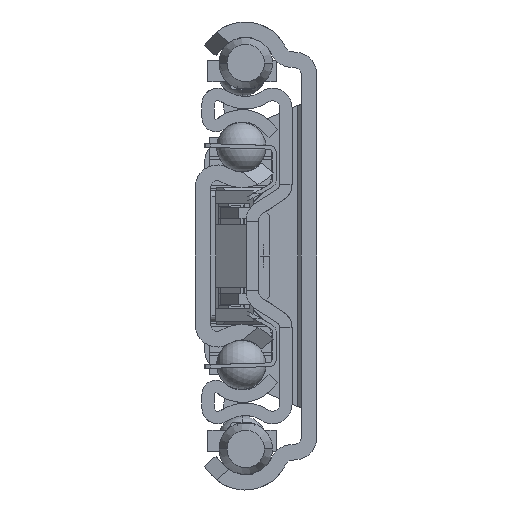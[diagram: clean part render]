
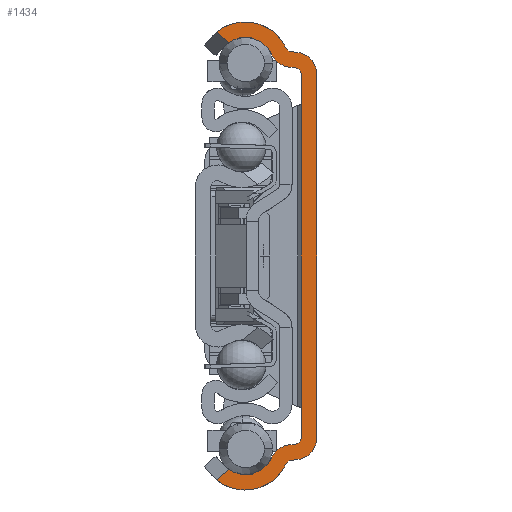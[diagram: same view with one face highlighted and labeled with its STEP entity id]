
A CAD part, left-side view. The second image highlights one B-rep face of the part: STEP entity #1434.
In plain terms, the highlighted planar face has unit normal (-1, 0, 0).
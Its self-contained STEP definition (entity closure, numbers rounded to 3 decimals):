
#1=DIRECTION('',(0.,-0.769,-0.639));
#2=VECTOR('',#1,2.575);
#3=CARTESIAN_POINT('',(0.,16.079,36.021));
#4=LINE('',#3,#2);
#5=CARTESIAN_POINT('',(0.,11.5,30.4));
#6=DIRECTION('',(1.,0.,0.));
#7=DIRECTION('',(0.,0.632,0.775));
#8=AXIS2_PLACEMENT_3D('',#5,#6,#7);
#10=DIRECTION('',(0.,-0.996,-0.087));
#11=VECTOR('',#10,0.904);
#12=CARTESIAN_POINT('',(0.,4.095,32.858));
#13=LINE('',#12,#11);
#14=CARTESIAN_POINT('',(0.,3.5,29.293));
#15=DIRECTION('',(-1.,0.,0.));
#16=DIRECTION('',(0.,-1.,0.));
#17=AXIS2_PLACEMENT_3D('',#14,#15,#16);
#19=DIRECTION('',(0.,0.,-1.));
#20=VECTOR('',#19,58.586);
#21=CARTESIAN_POINT('',(0.,0.,29.293));
#22=LINE('',#21,#20);
#23=CARTESIAN_POINT('',(0.,3.5,-29.293));
#24=DIRECTION('',(-1.,0.,0.));
#25=DIRECTION('',(0.,-0.087,-0.996));
#26=AXIS2_PLACEMENT_3D('',#23,#24,#25);
#28=DIRECTION('',(0.,0.996,-0.087));
#29=VECTOR('',#28,0.904);
#30=CARTESIAN_POINT('',(0.,3.195,-32.78));
#31=LINE('',#30,#29);
#32=CARTESIAN_POINT('',(0.,11.5,-30.4));
#33=DIRECTION('',(1.,0.,0.));
#34=DIRECTION('',(0.,-0.908,-0.419));
#35=AXIS2_PLACEMENT_3D('',#32,#33,#34);
#37=DIRECTION('',(0.,0.769,-0.639));
#38=VECTOR('',#37,2.575);
#39=CARTESIAN_POINT('',(0.,14.098,-34.377));
#40=LINE('',#39,#38);
#41=CARTESIAN_POINT('',(0.,11.5,-30.4));
#42=DIRECTION('',(-1.,0.,0.));
#43=DIRECTION('',(0.,0.547,-0.837));
#44=AXIS2_PLACEMENT_3D('',#41,#42,#43);
#46=CARTESIAN_POINT('',(0.,4.008,-33.854));
#47=DIRECTION('',(-1.,0.,0.));
#48=DIRECTION('',(0.,0.087,0.996));
#49=AXIS2_PLACEMENT_3D('',#46,#47,#48);
#51=DIRECTION('',(0.,-0.996,0.087));
#52=VECTOR('',#51,0.904);
#53=CARTESIAN_POINT('',(0.,4.313,-30.368));
#54=LINE('',#53,#52);
#55=DIRECTION('',(0.,0.,1.));
#56=VECTOR('',#55,58.586);
#57=CARTESIAN_POINT('',(0.,2.5,-29.293));
#58=LINE('',#57,#56);
#59=DIRECTION('',(0.,0.996,0.087));
#60=VECTOR('',#59,0.904);
#61=CARTESIAN_POINT('',(0.,3.413,30.289));
#62=LINE('',#61,#60);
#63=CARTESIAN_POINT('',(0.,4.008,33.854));
#64=DIRECTION('',(-1.,0.,0.));
#65=DIRECTION('',(0.,0.908,-0.419));
#66=AXIS2_PLACEMENT_3D('',#63,#64,#65);
#68=CARTESIAN_POINT('',(0.,11.5,30.4));
#69=DIRECTION('',(-1.,0.,0.));
#70=DIRECTION('',(0.,-0.908,0.419));
#71=AXIS2_PLACEMENT_3D('',#68,#69,#70);
#73=CARTESIAN_POINT('',(0.,14.098,34.377));
#122=CARTESIAN_POINT('',(0.,3.5,29.293));
#123=DIRECTION('',(1.,0.,0.));
#124=DIRECTION('',(0.,-0.087,0.996));
#125=AXIS2_PLACEMENT_3D('',#122,#123,#124);
#625=CARTESIAN_POINT('',(0.,16.079,36.021));
#692=CARTESIAN_POINT('',(0.,16.079,
-36.021));
#747=CARTESIAN_POINT('',(0.,14.098,
-34.377));
#1037=CARTESIAN_POINT('',(0.,3.5,-29.293));
#1038=DIRECTION('',(1.,0.,0.));
#1039=DIRECTION('',(0.,-1.,0.));
#1040=AXIS2_PLACEMENT_3D('',#1037,#1038,#1039);
#1047=CARTESIAN_POINT('',(0.,4.008,-33.854));
#1048=DIRECTION('',(1.,0.,0.));
#1049=DIRECTION('',(0.,0.908,0.419));
#1050=AXIS2_PLACEMENT_3D('',#1047,#1048,#1049);
#1065=CARTESIAN_POINT('',(0.,4.008,33.854));
#1066=DIRECTION('',(1.,0.,0.));
#1067=DIRECTION('',(0.,0.087,-0.996));
#1068=AXIS2_PLACEMENT_3D('',#1065,#1066,#1067);
#1083=CARTESIAN_POINT('',(0.,2.5,-29.293));
#1084=CARTESIAN_POINT('',(0.,2.5,29.293));
#1085=VERTEX_POINT('',#1083);
#1086=VERTEX_POINT('',#1084);
#1087=CARTESIAN_POINT('',(0.,3.413,-30.289));
#1088=VERTEX_POINT('',#1087);
#1089=CARTESIAN_POINT('',(0.,3.413,30.289));
#1090=VERTEX_POINT('',#1089);
#1091=CARTESIAN_POINT('',(0.,4.095,32.858));
#1092=CARTESIAN_POINT('',(0.,4.916,33.436));
#1093=VERTEX_POINT('',#1091);
#1094=VERTEX_POINT('',#1092);
#1095=CARTESIAN_POINT('',(0.,4.916,-33.436));
#1096=CARTESIAN_POINT('',(0.,4.095,-32.858));
#1097=VERTEX_POINT('',#1095);
#1098=VERTEX_POINT('',#1096);
#1099=CARTESIAN_POINT('',(0.,4.313,-30.368));
#1100=CARTESIAN_POINT('',(0.,7.186,-32.389));
#1101=VERTEX_POINT('',#1099);
#1102=VERTEX_POINT('',#1100);
#1103=CARTESIAN_POINT('',(0.,7.186,32.389));
#1104=CARTESIAN_POINT('',(0.,4.313,30.368));
#1105=VERTEX_POINT('',#1103);
#1106=VERTEX_POINT('',#1104);
#1107=CARTESIAN_POINT('',(0.,0.,29.293));
#1108=CARTESIAN_POINT('',(0.,3.195,32.78));
#1109=VERTEX_POINT('',#1107);
#1110=VERTEX_POINT('',#1108);
#1111=CARTESIAN_POINT('',(0.,3.195,-32.78));
#1112=CARTESIAN_POINT('',(0.,0.,-29.293));
#1113=VERTEX_POINT('',#1111);
#1114=VERTEX_POINT('',#1112);
#1361=VERTEX_POINT('',#73);
#1369=VERTEX_POINT('',#625);
#1370=VERTEX_POINT('',#692);
#1378=VERTEX_POINT('',#747);
#1387=CARTESIAN_POINT('',(0.,0.,0.));
#1388=DIRECTION('',(1.,0.,0.));
#1389=DIRECTION('',(0.,-1.,0.));
#1390=AXIS2_PLACEMENT_3D('',#1387,#1388,#1389);
#1391=PLANE('',#1390);
#1393=ORIENTED_EDGE('',*,*,#1392,.F.);
#1395=ORIENTED_EDGE('',*,*,#1394,.T.);
#1397=ORIENTED_EDGE('',*,*,#1396,.F.);
#1399=ORIENTED_EDGE('',*,*,#1398,.T.);
#1401=ORIENTED_EDGE('',*,*,#1400,.F.);
#1403=ORIENTED_EDGE('',*,*,#1402,.T.);
#1405=ORIENTED_EDGE('',*,*,#1404,.F.);
#1407=ORIENTED_EDGE('',*,*,#1406,.T.);
#1409=ORIENTED_EDGE('',*,*,#1408,.F.);
#1411=ORIENTED_EDGE('',*,*,#1410,.T.);
#1413=ORIENTED_EDGE('',*,*,#1412,.F.);
#1415=ORIENTED_EDGE('',*,*,#1414,.T.);
#1417=ORIENTED_EDGE('',*,*,#1416,.F.);
#1419=ORIENTED_EDGE('',*,*,#1418,.T.);
#1421=ORIENTED_EDGE('',*,*,#1420,.F.);
#1423=ORIENTED_EDGE('',*,*,#1422,.T.);
#1425=ORIENTED_EDGE('',*,*,#1424,.F.);
#1427=ORIENTED_EDGE('',*,*,#1426,.T.);
#1429=ORIENTED_EDGE('',*,*,#1428,.F.);
#1431=ORIENTED_EDGE('',*,*,#1430,.T.);
#1432=EDGE_LOOP('',(#1393,#1395,#1397,#1399,#1401,#1403,#1405,#1407,#1409,#1411,
#1413,#1415,#1417,#1419,#1421,#1423,#1425,#1427,#1429,#1431));
#1433=FACE_OUTER_BOUND('',#1432,.F.);
#9=CIRCLE('',#8,7.25);
#18=CIRCLE('',#17,3.5);
#27=CIRCLE('',#26,3.5);
#36=CIRCLE('',#35,7.25);
#45=CIRCLE('',#44,4.75);
#50=CIRCLE('',#49,3.5);
#67=CIRCLE('',#66,3.5);
#72=CIRCLE('',#71,4.75);
#126=CIRCLE('',#125,1.);
#1041=CIRCLE('',#1040,1.);
#1051=CIRCLE('',#1050,1.);
#1069=CIRCLE('',#1068,1.);
#1392=EDGE_CURVE('',#1369,#1361,#4,.T.);
#1394=EDGE_CURVE('',#1369,#1094,#9,.T.);
#1396=EDGE_CURVE('',#1093,#1094,#1069,.T.);
#1398=EDGE_CURVE('',#1093,#1110,#13,.T.);
#1400=EDGE_CURVE('',#1109,#1110,#18,.T.);
#1402=EDGE_CURVE('',#1109,#1114,#22,.T.);
#1404=EDGE_CURVE('',#1113,#1114,#27,.T.);
#1406=EDGE_CURVE('',#1113,#1098,#31,.T.);
#1408=EDGE_CURVE('',#1097,#1098,#1051,.T.);
#1410=EDGE_CURVE('',#1097,#1370,#36,.T.);
#1412=EDGE_CURVE('',#1378,#1370,#40,.T.);
#1414=EDGE_CURVE('',#1378,#1102,#45,.T.);
#1416=EDGE_CURVE('',#1101,#1102,#50,.T.);
#1418=EDGE_CURVE('',#1101,#1088,#54,.T.);
#1420=EDGE_CURVE('',#1085,#1088,#1041,.T.);
#1422=EDGE_CURVE('',#1085,#1086,#58,.T.);
#1424=EDGE_CURVE('',#1090,#1086,#126,.T.);
#1426=EDGE_CURVE('',#1090,#1106,#62,.T.);
#1428=EDGE_CURVE('',#1105,#1106,#67,.T.);
#1430=EDGE_CURVE('',#1105,#1361,#72,.T.);
#1434=ADVANCED_FACE('',(#1433),#1391,.F.);
